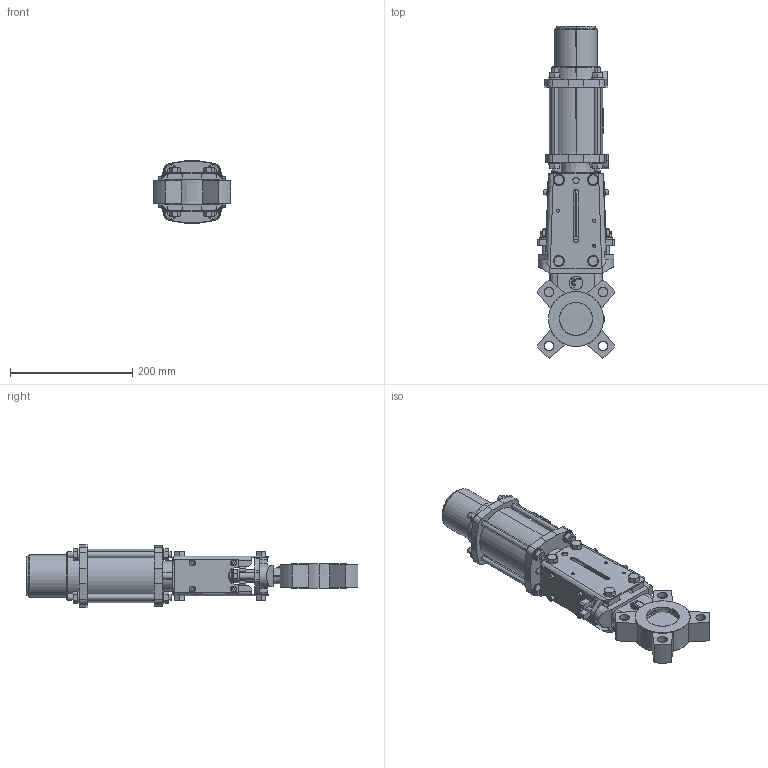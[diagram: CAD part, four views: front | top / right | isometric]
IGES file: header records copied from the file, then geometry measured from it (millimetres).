
Start section: SolidWorks IGES file using analytic representation for surfaces
Global section: file name: D:\part\3D Projects\VG-SINGLE ACTING CYLINDER N (DN50-300)\VG P N DN50\VG P N DN50.IGS; native system: SolidWorks 2009; preprocessor: SolidWorks 2009; author: zhixin.zheng; date: 100331.110441; units: millimetre
Bounding box: 127.6 x 543.8 x 102 mm (x, y, z)
Surface area: 387324.4 mm2 (no closed solid volume)
Topology: 0 solids, 0 shells, 1038 faces, 12777 edges, 12777 vertices
Faces by surface type: bspline 593, revolution 445
